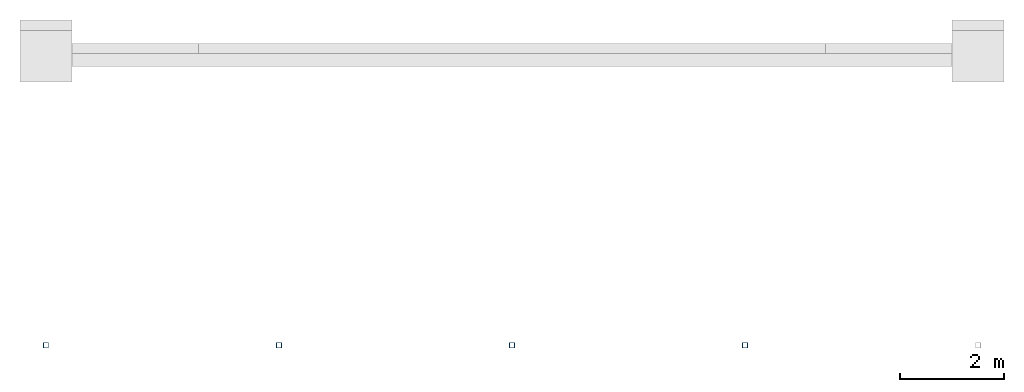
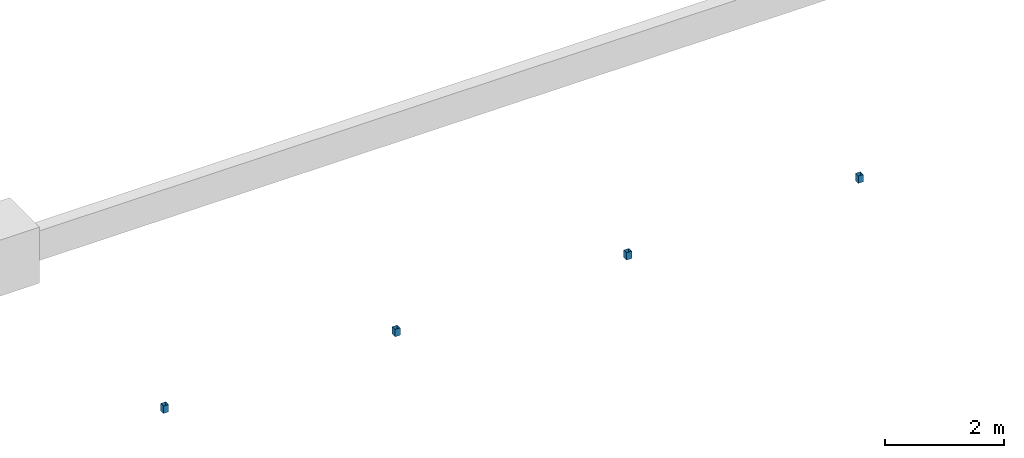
# One storey, part 1 of 3: 4 columns.
"""IFC2X3 building model written with IfcOpenShell, lengths in millimetres."""

from ifc_helpers import new_model, entity, si_unit, converted_unit, derived_unit, direction, frame, origin_with_axes, place, context, subcontext, project, spatial, faceted_brep, material, type_object, element, save


model = new_model("IFC2X3")

# Units and contexts
model_context = context("Model", 3, precision=0.01, world=frame((0.0, 4.29681676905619e-09, 0.0)), true_north=direction((4.01073788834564e-13, 1.0)))
plan_context = context("Plan", 3, precision=0.01, world=frame((0.0, 4.29681676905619e-09, 0.0)), true_north=direction((4.01073788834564e-13, 1.0)))
body_context = subcontext(model_context, "Body", "Model", "MODEL_VIEW")
ifc_project = project(units=[converted_unit("PLANEANGLEUNIT", "DEGREE", entity("IfcPositiveLengthMeasure", 0.0174532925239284), si_unit("PLANEANGLEUNIT", "RADIAN"), dimensions=[0, 0, 0, 0, 0, 0, 0]), si_unit("AREAUNIT", "SQUARE_METRE"), si_unit("LENGTHUNIT", "METRE", prefix="MILLI"), si_unit("MASSUNIT", "GRAM", prefix="KILO"), si_unit("POWERUNIT", "WATT"), si_unit("PRESSUREUNIT", "PASCAL", prefix="KILO"), si_unit("FORCEUNIT", "NEWTON", prefix="KILO"), si_unit("ELECTRICVOLTAGEUNIT", "VOLT"), si_unit("ELECTRICCURRENTUNIT", "AMPERE"), si_unit("THERMODYNAMICTEMPERATUREUNIT", "DEGREE_CELSIUS"), si_unit("TIMEUNIT", "SECOND"), si_unit("VOLUMEUNIT", "CUBIC_METRE"), derived_unit("LINEARVELOCITYUNIT", [(si_unit("LENGTHUNIT", "METRE"), 1), (si_unit("TIMEUNIT", "SECOND"), -1)]), derived_unit("VOLUMETRICFLOWRATEUNIT", [(si_unit("VOLUMEUNIT", "CUBIC_METRE"), 1), (si_unit("TIMEUNIT", "SECOND"), -1)]), derived_unit("THERMALTRANSMITTANCEUNIT", [(si_unit("POWERUNIT", "WATT"), 1), (si_unit("THERMODYNAMICTEMPERATUREUNIT", "KELVIN"), -1), (si_unit("AREAUNIT", "SQUARE_METRE"), -1)]), derived_unit("SOUNDPRESSUREUNIT", [(si_unit("PRESSUREUNIT", "PASCAL"), 1)])], contexts=[model_context, plan_context])

# Site, building, storey
site_placement = place(None, frame((0.0, -4.29681676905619e-09, 0.0), z_axis=(0.0, 0.0, 1.0), x_axis=(1.0, 0.0, 0.0)))
site = spatial("IfcSite", under=ifc_project, at=site_placement, Name="Gardermoen", CompositionType="ELEMENT")
building_placement = place(site_placement, frame((0.0, 4.29681676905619e-09, 0.0), z_axis=(0.0, 0.0, 1.0), x_axis=(1.0, 0.0, 0.0)))
building = spatial("IfcBuilding", under=site, at=building_placement, Name="TI", CompositionType="ELEMENT")
storey_placement = place(building_placement, origin_with_axes())
storey = spatial("IfcBuildingStorey", under=building, at=storey_placement, Name="D", CompositionType="ELEMENT", Elevation=0.0)

# Columns
ifc_material = material(Name="STEEL/S355")
column_type = type_object("IfcColumnType", Name="RHS100*6.3", PredefinedType="NOTDEFINED")
for number, where, z_axis, x_axis in (
    (1, (596500.000397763, 569920.002834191, 210302.999542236), (0.0, 1.0, 0.0), (0.0, 0.0, 1.0)),
    (2, (592000.000397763, 569920.002834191, 210302.999542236), (0.0, 1.0, 0.0), (0.0, 0.0, 1.0)),
    (3, (587500.000397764, 569920.002834, 210302.999542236), (0.0, 1.0, 0.0), (0.0, 0.0, 1.0)),
    (4, (583000.000397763, 569920.002834, 210302.999542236), (0.0, 1.0, 0.0), (0.0, 0.0, 1.0)),
):
    element("IfcColumn", number, at=place(storey_placement, frame(where, z_axis=z_axis, x_axis=x_axis)), inside=storey, type_object=column_type, material=ifc_material, Name="STÅLSØYLE", ObjectType="RHS100*6.3", context=body_context, shape_type="Brep", body=[
        faceted_brep([(0.0, 43.6999998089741, -43.6999998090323), (0.0, -43.6999998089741, -43.6999998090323), (150.000457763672, -43.6999998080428, -43.6999998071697), (150.000457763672, 43.6999998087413, -43.6999998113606), (0.0, -43.6999998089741, 43.6999998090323), (150.000457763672, -43.6999998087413, 43.6999998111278), (0.0, 43.6999998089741, 43.6999998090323), (150.000457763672, 43.6999998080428, 43.6999998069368), (0.0, 50.0, -50.0), (0.0, 50.0, 50.0), (150.000457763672, 49.9999999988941, 49.9999999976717), (150.000457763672, 49.999999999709, -50.0000000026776), (0.0, -50.0, 50.0), (150.000457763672, -49.999999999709, 50.0000000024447), (0.0, -50.0, -50.0), (150.000457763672, -49.9999999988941, -49.9999999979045)], [[[0, 1, 2, 3]], [[1, 4, 5, 2]], [[4, 6, 7, 5]], [[6, 0, 3, 7]], [[8, 9, 10, 11]], [[9, 12, 13, 10]], [[12, 14, 15, 13]], [[14, 8, 11, 15]], [[13, 15, 11, 10], [5, 7, 3, 2]], [[14, 12, 9, 8], [6, 4, 1, 0]]]),
    ])

save(model, "model.ifc")
